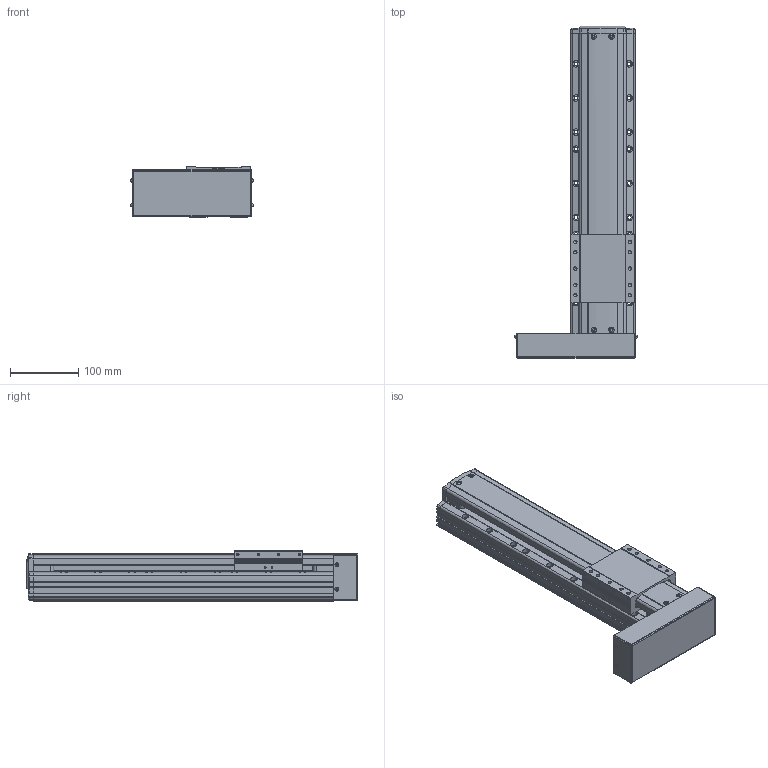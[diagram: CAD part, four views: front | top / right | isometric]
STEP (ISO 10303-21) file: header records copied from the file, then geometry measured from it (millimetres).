
FILE_DESCRIPTION(('STEP AP214'),'1');
FILE_NAME('Z:/Web/3D/PSA95/STP/PSA95-250 (3D)/PSA95ㅁㅁ-250PL.stp','2014-07-03T00:02:20',(' '),(' '),'Spatial InterOp 3D',' ',' ');
FILE_SCHEMA(('automotive_design'));
Length unit declared in the file: millimetre
Products named in the file (23): BASE; RRCV; 스크루 : Round - M4.0 x 10.0; 너트 : Square - M10.0 x 220.7419; RR1500; FRCV-090; 스크루 : Round - M4.0 x 6.0; SLBL-PA90; MOTOR PLATE COVER; 스크루 : Round - M3.0 x 6.0
Bounding box: 179.13 x 486.5 x 74 mm (x, y, z)
Volume: 2897696.9 mm3; surface area: 327240.6 mm2
Topology: 23 solids, 23 shells, 1891 faces, 5078 edges, 3234 vertices
Faces by surface type: plane 1051, cylinder 571, cone 189, sphere 42, bspline 24, torus 14
Entity records: 76262 total; most frequent: CARTESIAN_POINT 13185, DIRECTION 9972, ORIENTED_EDGE 9900, EDGE_CURVE 4950, LINE 3382, VECTOR 3382, AXIS2_PLACEMENT_3D 3295, VERTEX_POINT 3234
